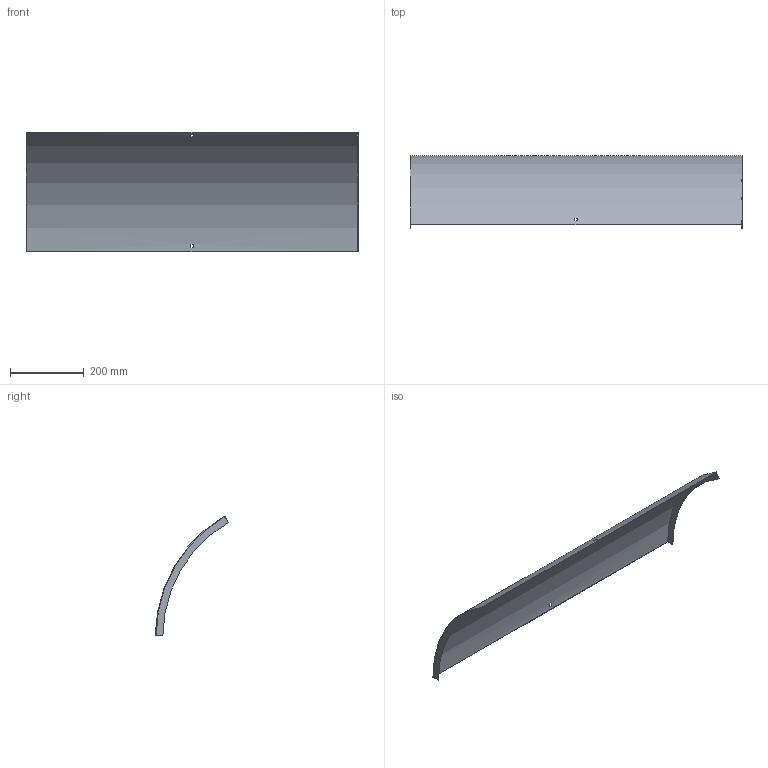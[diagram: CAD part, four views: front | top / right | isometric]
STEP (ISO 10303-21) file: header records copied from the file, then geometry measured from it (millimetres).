
FILE_DESCRIPTION (( 'STEP AP214' ), '1' );
FILE_NAME ('B2_41N3C900.step', '2025-02-21T10:41:28', ( '' ), ( '' ), 'SwSTEP 2.0', 'SolidWorks 2023', '' );
FILE_SCHEMA (( 'AUTOMOTIVE_DESIGN' ));
Length unit declared in the file: millimetre
Products named in the file (1): B2_41N3C900
Bounding box: 903 x 198.25 x 326.06 mm (x, y, z)
Volume: 554056.2 mm3; surface area: 742777.1 mm2
Topology: 1 solids, 1 shells, 18 faces, 48 edges, 32 vertices
Faces by surface type: plane 14, cylinder 4
Entity records: 599 total; most frequent: DIRECTION 102, CARTESIAN_POINT 99, ORIENTED_EDGE 96, EDGE_CURVE 48, AXIS2_PLACEMENT_3D 35, VERTEX_POINT 32, VECTOR 32, LINE 32
